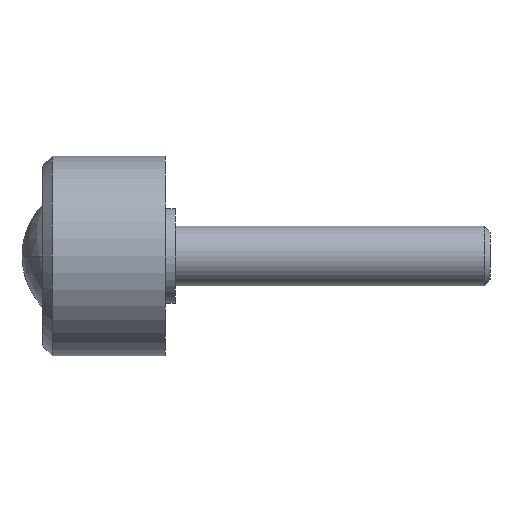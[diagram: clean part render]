
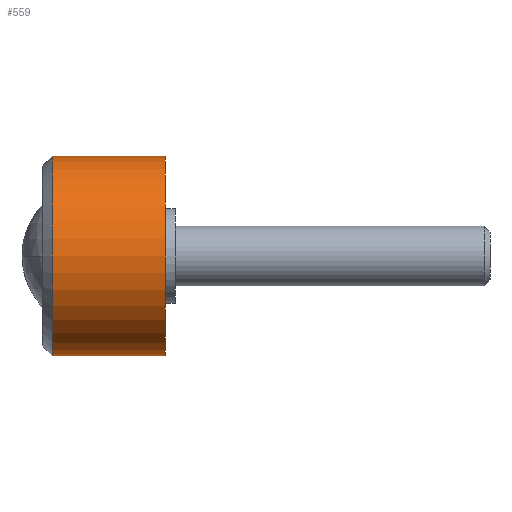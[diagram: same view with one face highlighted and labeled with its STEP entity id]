
A CAD part, left-side view. The second image highlights one B-rep face of the part: STEP entity #559.
In plain terms, the highlighted cylindrical face has radius 20 mm (diameter 40 mm), a partial arc.
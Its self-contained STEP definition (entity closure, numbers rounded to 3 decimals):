
#7 = ORIENTED_EDGE ( 'NONE', *, *, #401, .T. ) ;
#9 = EDGE_CURVE ( 'NONE', #368, #429, #269, .T. ) ;
#24 = CARTESIAN_POINT ( 'NONE',  ( 0., 0., 20. ) ) ;
#39 = ORIENTED_EDGE ( 'NONE', *, *, #565, .T. ) ;
#70 = FACE_OUTER_BOUND ( 'NONE', #472, .T. ) ;
#73 = CARTESIAN_POINT ( 'NONE',  ( 0., 22.6, 0. ) ) ;
#100 = EDGE_CURVE ( 'NONE', #429, #423, #706, .T. ) ;
#106 = CARTESIAN_POINT ( 'NONE',  ( 0., 0., -20. ) ) ;
#127 = DIRECTION ( 'NONE',  ( 0., -1., 0. ) ) ;
#173 = LINE ( 'NONE', #106, #756 ) ;
#191 = DIRECTION ( 'NONE',  ( 0., -1., 0. ) ) ;
#212 = DIRECTION ( 'NONE',  ( 0., 0., -1. ) ) ;
#269 = LINE ( 'NONE', #24, #541 ) ;
#273 = DIRECTION ( 'NONE',  ( 0., -1., 0. ) ) ;
#354 = CARTESIAN_POINT ( 'NONE',  ( 0., 0., -20. ) ) ;
#368 = VERTEX_POINT ( 'NONE', #526 ) ;
#401 = EDGE_CURVE ( 'NONE', #778, #423, #173, .T. ) ;
#412 = DIRECTION ( 'NONE',  ( 0., -1., 0. ) ) ;
#423 = VERTEX_POINT ( 'NONE', #354 ) ;
#429 = VERTEX_POINT ( 'NONE', #775 ) ;
#450 = DIRECTION ( 'NONE',  ( 0., -1., 0. ) ) ;
#472 = EDGE_LOOP ( 'NONE', ( #497, #39, #7, #758 ) ) ;
#484 = CYLINDRICAL_SURFACE ( 'NONE', #629, 20. ) ;
#497 = ORIENTED_EDGE ( 'NONE', *, *, #9, .F. ) ;
#526 = CARTESIAN_POINT ( 'NONE',  ( 0., 22.6, 20. ) ) ;
#541 = VECTOR ( 'NONE', #450, 1000. ) ;
#542 = AXIS2_PLACEMENT_3D ( 'NONE', #650, #273, #212 ) ;
#559 = ADVANCED_FACE ( 'NONE', ( #70 ), #484, .T. ) ;
#565 = EDGE_CURVE ( 'NONE', #368, #778, #719, .T. ) ;
#610 = DIRECTION ( 'NONE',  ( 0., 0., -1. ) ) ;
#611 = CARTESIAN_POINT ( 'NONE',  ( 0., 22.6, -20. ) ) ;
#629 = AXIS2_PLACEMENT_3D ( 'NONE', #724, #127, #610 ) ;
#650 = CARTESIAN_POINT ( 'NONE',  ( 0., 0., 0. ) ) ;
#673 = DIRECTION ( 'NONE',  ( 0., 0., 1. ) ) ;
#706 = CIRCLE ( 'NONE', #542, 20. ) ;
#719 = CIRCLE ( 'NONE', #730, 20. ) ;
#724 = CARTESIAN_POINT ( 'NONE',  ( 0., 0., 0. ) ) ;
#730 = AXIS2_PLACEMENT_3D ( 'NONE', #73, #191, #673 ) ;
#756 = VECTOR ( 'NONE', #412, 1000. ) ;
#758 = ORIENTED_EDGE ( 'NONE', *, *, #100, .F. ) ;
#775 = CARTESIAN_POINT ( 'NONE',  ( 0., 0., 20. ) ) ;
#778 = VERTEX_POINT ( 'NONE', #611 ) ;
